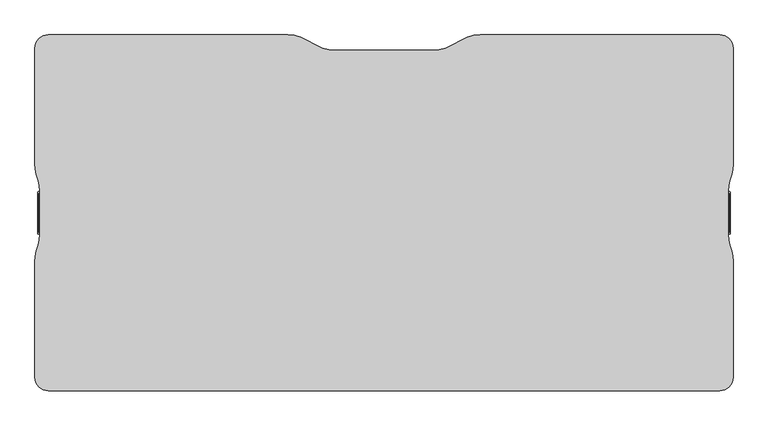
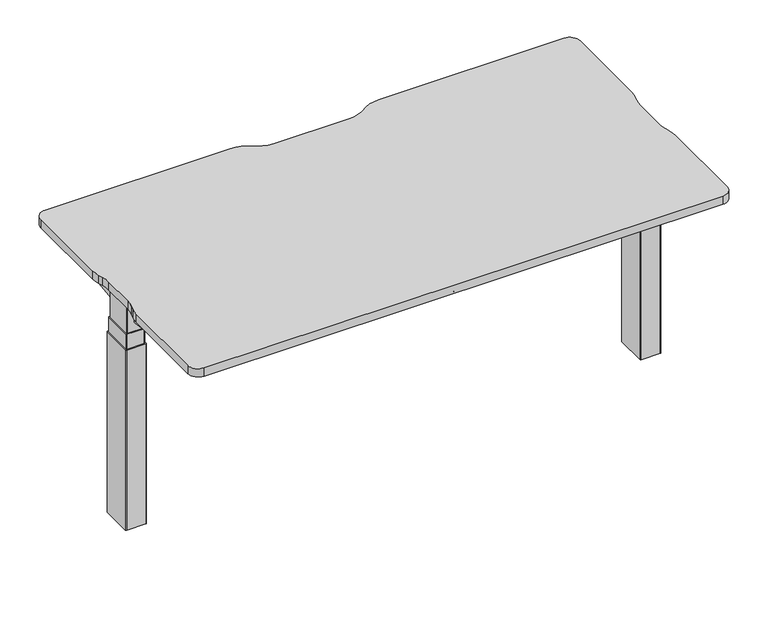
"""IFC4 building model written with IfcOpenShell, lengths in millimetres: furniture geometry, DBLTD_TheSenatorGroup_OffcDsks_Workbase_Single_ElectricHAModule : 1600mm Single Electric Height Adjustable Desktop."""

from ifc_helpers import new_model, si_unit, point, frame, frame_2d, origin, origin_with_axes, place, context, project, spatial, polyline, circle_curve, trimmed, segment, composite_curve, outline, extrude, source, transform, mapped, element, save
from ifc_brep_helpers import plane_surface, cylinder_surface, revolved_surface, advanced_brep


def furniture_de327a2e(model_context):
    return source(origin(), model_context, "Body", "SolidModel", [
        advanced_brep(
        [(827.5, 1074.5635605, 657.0995061), (829.0, 1074.5635605, 657.0995061), (829.0, 874.6252942, 629.0000153), (827.5, 874.6252942, 629.0000153), (786.4997482, 867.1001816, 676.9894572), (826.5, 867.1001816, 676.9894572), (827.5, 867.1001816, 675.9894572), (827.5, 867.1001816, 629.0000153), (829.0, 867.1001816, 629.0000153), (829.0, 867.1001816, 675.9894572), (826.5, 867.1001816, 678.4894572), (786.4997482, 867.1001816, 678.4894572), (827.5, 1074.5635605, 675.9894572), (826.5, 1074.5635605, 676.9894572), (786.4997482, 1074.5635605, 676.9894572), (786.4997482, 1074.5635605, 678.4894572), (826.5, 1074.5635605, 678.4894572), (829.0, 1074.5635605, 675.9894572)],
        [
            (0, 1),
            (1, 2),
            (2, 3),
            (3, 0),
            (4, 5),
            (5, 6, circle_curve(frame((826.5, 867.1001816, 675.9894572), z_axis=(0.0, 1.0, 0.0), x_axis=(-1.0, 0.0, 0.0)), 1.0)),
            (6, 7),
            (7, 8),
            (8, 9),
            (9, 10, circle_curve(frame((826.5, 867.1001816, 675.9894572), z_axis=(0.0, -1.0, 0.0), x_axis=(-1.0, 0.0, 0.0)), 2.5)),
            (10, 11),
            (11, 4),
            (12, 13, circle_curve(frame((826.5, 1074.5635605, 675.9894572), z_axis=(0.0, -1.0, 0.0), x_axis=(-1.0, 0.0, 0.0)), 1.0)),
            (13, 14),
            (14, 15),
            (15, 16),
            (16, 17, circle_curve(frame((826.5, 1074.5635605, 675.9894572), z_axis=(0.0, 1.0, 0.0), x_axis=(-1.0, 0.0, 0.0)), 2.5)),
            (17, 1),
            (0, 12),
            (13, 5),
            (4, 14),
            (11, 15),
            (10, 16),
            (17, 9),
            (8, 2),
            (7, 3),
            (6, 12),
        ],
        [
            plane_surface(frame((897.5, 1087.3081702, 658.8906442), z_axis=(0.0, 0.13917310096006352, -0.9902680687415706), x_axis=(-1.0, 0.0, 0.0))),
            plane_surface(frame((897.5, 867.1001816, 629.0000153), z_axis=(0.0, -1.0, 0.0), x_axis=(-1.0, 0.0, 0.0))),
            plane_surface(frame((827.5, 1074.5635605, 629.0000153), z_axis=(0.0, 1.0, 0.0), x_axis=(0.0, 0.0, 1.0))),
            plane_surface(frame((786.4997482, 576.1001396, 676.9894572), z_axis=(0.0, 0.0, -1.0), x_axis=(0.0, 1.0, 0.0))),
            plane_surface(frame((786.4997482, 576.1001396, 678.4894572), z_axis=(-1.0, 0.0, 0.0), x_axis=(0.0, 1.0, 0.0))),
            plane_surface(frame((826.5, 576.1001396, 678.4894572), z_axis=(0.0, 0.0, 1.0), x_axis=(0.0, 1.0, 0.0))),
            plane_surface(frame((829.0, 576.1001396, 629.0000153), z_axis=(1.0, 0.0, 0.0), x_axis=(0.0, 1.0, 0.0))),
            plane_surface(frame((827.5, 576.1001396, 629.0000153), z_axis=(0.0, 0.0, -1.0), x_axis=(0.0, 1.0, 0.0))),
            plane_surface(frame((827.5, 576.1001396, 675.9894572), z_axis=(-1.0, 0.0, 0.0), x_axis=(0.0, 1.0, 0.0))),
            revolved_surface(polyline([(825.5, 1074.5635605, 675.9894572), (825.5, 867.1001816, 675.9894572)]), (826.5, 1074.5635605, 675.9894572), (0.0, 1.0, 0.0)),
            cylinder_surface(frame((826.5, 1074.5635605, 675.9894572), z_axis=(0.0, -1.0, 0.0), x_axis=(-1.0, 0.0, 0.0)), 2.5),
        ],
        [
            (0, [[1, 2, 3, 4]]),
            (1, [[5, 6, 7, 8, 9, 10, 11, 12]]),
            (2, [[13, 14, 15, 16, 17, 18, -1, 19]]),
            (3, [[-14, 20, -5, 21]]),
            (4, [[-15, -21, -12, 22]]),
            (5, [[-16, -22, -11, 23]]),
            (6, [[-18, 24, -9, 25, -2]]),
            (7, [[-25, -8, 26, -3]]),
            (8, [[-19, -4, -26, -7, 27]]),
            (9, [[-13, -27, -6, -20]]),
            (10, [[-17, -23, -10, -24]]),
        ],
    ),
        advanced_brep(
        [(826.5, 783.1001616, 676.9894572), (786.4997482, 783.1001616, 676.9894572), (786.4997482, 783.1001616, 678.4894572), (826.5, 783.1001616, 678.4894572), (829.0, 783.1001616, 675.9894572), (829.0, 783.1001616, 629.0000153), (827.5, 783.1001616, 629.0000153), (827.5, 783.1001616, 675.9894572), (829.0, 576.1001396, 657.0343862), (827.5, 576.1001396, 657.0343862), (827.5, 775.5750537, 629.0000153), (829.0, 775.5750537, 629.0000153), (829.0, 576.1001396, 675.9894572), (826.5, 576.1001396, 678.4894572), (786.4997482, 576.1001396, 678.4894572), (786.4997482, 576.1001396, 676.9894572), (826.5, 576.1001396, 676.9894572), (827.5, 576.1001396, 675.9894572)],
        [
            (0, 1),
            (1, 2),
            (2, 3),
            (3, 4, circle_curve(frame((826.5, 783.1001616, 675.9894572), z_axis=(0.0, 1.0, 0.0), x_axis=(-1.0, 0.0, 0.0)), 2.5)),
            (4, 5),
            (5, 6),
            (6, 7),
            (7, 0, circle_curve(frame((826.5, 783.1001616, 675.9894572), z_axis=(0.0, -1.0, 0.0), x_axis=(-1.0, 0.0, 0.0)), 1.0)),
            (8, 9),
            (9, 10),
            (10, 11),
            (11, 8),
            (12, 13, circle_curve(frame((826.5, 576.1001396, 675.9894572), z_axis=(0.0, -1.0, 0.0), x_axis=(-1.0, 0.0, 0.0)), 2.5)),
            (13, 14),
            (14, 15),
            (15, 16),
            (16, 17, circle_curve(frame((826.5, 576.1001396, 675.9894572), z_axis=(0.0, 1.0, 0.0), x_axis=(-1.0, 0.0, 0.0)), 1.0)),
            (17, 9),
            (8, 12),
            (15, 1),
            (0, 16),
            (14, 2),
            (13, 3),
            (11, 5),
            (4, 12),
            (10, 6),
            (17, 7),
        ],
        [
            plane_surface(frame((897.5, 783.1001616, 680.0), z_axis=(0.0, 1.0, 0.0), x_axis=(-1.0, 0.0, 0.0))),
            plane_surface(frame((897.5, 775.5750537, 629.0000153), z_axis=(0.0, -0.13917310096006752, -0.9902680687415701), x_axis=(-1.0, 0.0, 0.0))),
            plane_surface(frame((827.5, 576.1001396, 629.0000153), z_axis=(0.0, -1.0, 0.0), x_axis=(0.0, 0.0, -1.0))),
            plane_surface(frame((786.4997482, 576.1001396, 676.9894572), z_axis=(0.0, 0.0, -1.0), x_axis=(0.0, 1.0, 0.0))),
            plane_surface(frame((786.4997482, 576.1001396, 678.4894572), z_axis=(-1.0, 0.0, 0.0), x_axis=(0.0, 1.0, 0.0))),
            plane_surface(frame((826.5, 576.1001396, 678.4894572), z_axis=(0.0, 0.0, 1.0), x_axis=(0.0, 1.0, 0.0))),
            plane_surface(frame((829.0, 576.1001396, 629.0000153), z_axis=(1.0, 0.0, 0.0), x_axis=(0.0, 1.0, 0.0))),
            plane_surface(frame((827.5, 576.1001396, 629.0000153), z_axis=(0.0, 0.0, -1.0), x_axis=(0.0, 1.0, 0.0))),
            plane_surface(frame((827.5, 576.1001396, 675.9894572), z_axis=(-1.0, 0.0, 0.0), x_axis=(0.0, 1.0, 0.0))),
            revolved_surface(polyline([(825.5, 783.1001616, 675.9894572), (825.5, 576.1001396, 675.9894572)]), (826.5, 1074.5635605, 675.9894572), (0.0, 1.0, 0.0)),
            cylinder_surface(frame((826.5, 1074.5635605, 675.9894572), z_axis=(0.0, -1.0, 0.0), x_axis=(-1.0, 0.0, 0.0)), 2.5),
        ],
        [
            (0, [[1, 2, 3, 4, 5, 6, 7, 8]]),
            (1, [[9, 10, 11, 12]]),
            (2, [[13, 14, 15, 16, 17, 18, -9, 19]]),
            (3, [[-16, 20, -1, 21]]),
            (4, [[-15, 22, -2, -20]]),
            (5, [[-14, 23, -3, -22]]),
            (6, [[-19, -12, 24, -5, 25]]),
            (7, [[-24, -11, 26, -6]]),
            (8, [[-18, 27, -7, -26, -10]]),
            (9, [[-17, -21, -8, -27]]),
            (10, [[-13, -25, -4, -23]]),
        ],
    ),
        advanced_brep(
        [(-32.2393387, 435.3001404, 673.7607027), (-27.6507272, 435.3001404, 672.3139191), (50.0699207, 435.3001404, 672.3139191), (50.0699207, 435.3001404, 673.3139191), (-27.6507272, 435.3001404, 673.3139191), (-31.6657622, 435.3001404, 674.5798548), (-37.082033, 435.3001404, 678.3723684), (-42.2442209, 435.3001404, 680.0), (-56.1499786, 435.3001404, 680.0), (-56.1499786, 435.3001404, 679.0), (-42.2442209, 435.3001404, 679.0), (-37.6556095, 435.3001404, 677.5532164), (182.6507272, 435.3001404, 672.3139191), (187.2393387, 435.3001404, 673.7607027), (192.6556095, 435.3001404, 677.5532164), (197.2442209, 435.3001404, 679.0), (211.1499786, 435.3001404, 679.0), (211.1499786, 435.3001404, 680.0), (197.2442209, 435.3001404, 680.0), (192.082033, 435.3001404, 678.3723684), (186.6657622, 435.3001404, 674.5798548), (182.6507272, 435.3001404, 673.3139191), (104.9300793, 435.3001404, 673.3139191), (104.9300793, 435.3001404, 672.3139191), (-32.2393387, 590.3001785, 673.7607027), (-37.6556095, 590.3001785, 677.5532164), (-42.2442209, 590.3001785, 679.0), (-56.1499786, 590.3001785, 679.0), (-56.1499786, 590.3001785, 680.0), (-42.2442209, 590.3001785, 680.0), (-37.082033, 590.3001785, 678.3723684), (-31.6657622, 590.3001785, 674.5798548), (-27.6507272, 590.3001785, 673.3139191), (182.6507272, 590.3001785, 673.3139191), (186.6657622, 590.3001785, 674.5798548), (192.082033, 590.3001785, 678.3723684), (197.2442209, 590.3001785, 680.0), (211.1499786, 590.3001785, 680.0), (211.1499786, 590.3001785, 679.0), (197.2442209, 590.3001785, 679.0), (192.6556095, 590.3001785, 677.5532164), (187.2393387, 590.3001785, 673.7607027), (182.6507272, 590.3001785, 672.3139191), (-27.6507272, 590.3001785, 672.3139191), (96.3622752, 440.1433261, 672.3139191), (92.065267, 447.2826031, 672.3139191), (62.934733, 447.2826031, 672.3139191), (58.6377248, 440.1433261, 672.3139191), (58.6377248, 440.1433261, 673.3139191), (62.934733, 447.2826031, 673.3139191), (92.065267, 447.2826031, 673.3139191), (96.3622752, 440.1433261, 673.3139191)],
        [
            (0, 1, circle_curve(frame((-27.6507272, 435.3001404, 680.3139191), z_axis=(0.0, -1.0, 0.0), x_axis=(1.0, 0.0, 0.0)), 8.0)),
            (1, 2),
            (2, 3),
            (3, 4),
            (4, 5, circle_curve(frame((-27.6507272, 435.3001404, 680.3139191), z_axis=(0.0, 1.0, 0.0), x_axis=(1.0, 0.0, 0.0)), 7.0)),
            (5, 6),
            (6, 7, circle_curve(frame((-42.2442209, 435.3001404, 671.0), z_axis=(0.0, -1.0, 0.0), x_axis=(1.0, 0.0, 0.0)), 9.0)),
            (7, 8),
            (8, 9),
            (9, 10),
            (10, 11, circle_curve(frame((-42.2442209, 435.3001404, 671.0), z_axis=(0.0, 1.0, 0.0), x_axis=(1.0, 0.0, 0.0)), 8.0)),
            (11, 0),
            (12, 13, circle_curve(frame((182.6507272, 435.3001404, 680.3139191), z_axis=(0.0, -1.0, 0.0), x_axis=(1.0, 0.0, 0.0)), 8.0)),
            (13, 14),
            (14, 15, circle_curve(frame((197.2442209, 435.3001404, 671.0), z_axis=(0.0, 1.0, 0.0), x_axis=(1.0, 0.0, 0.0)), 8.0)),
            (15, 16),
            (16, 17),
            (17, 18),
            (18, 19, circle_curve(frame((197.2442209, 435.3001404, 671.0), z_axis=(0.0, -1.0, 0.0), x_axis=(1.0, 0.0, 0.0)), 9.0)),
            (19, 20),
            (20, 21, circle_curve(frame((182.6507272, 435.3001404, 680.3139191), z_axis=(0.0, 1.0, 0.0), x_axis=(1.0, 0.0, 0.0)), 7.0)),
            (21, 22),
            (22, 23),
            (23, 12),
            (24, 25),
            (25, 26, circle_curve(frame((-42.2442209, 590.3001785, 671.0), z_axis=(0.0, -1.0, 0.0), x_axis=(1.0, 0.0, 0.0)), 8.0)),
            (26, 27),
            (27, 28),
            (28, 29),
            (29, 30, circle_curve(frame((-42.2442209, 590.3001785, 671.0), z_axis=(0.0, 1.0, 0.0), x_axis=(1.0, 0.0, 0.0)), 9.0)),
            (30, 31),
            (31, 32, circle_curve(frame((-27.6507272, 590.3001785, 680.3139191), z_axis=(0.0, -1.0, 0.0), x_axis=(1.0, 0.0, 0.0)), 7.0)),
            (32, 33),
            (33, 34, circle_curve(frame((182.6507272, 590.3001785, 680.3139191), z_axis=(0.0, -1.0, 0.0), x_axis=(1.0, 0.0, 0.0)), 7.0)),
            (34, 35),
            (35, 36, circle_curve(frame((197.2442209, 590.3001785, 671.0), z_axis=(0.0, 1.0, 0.0), x_axis=(1.0, 0.0, 0.0)), 9.0)),
            (36, 37),
            (37, 38),
            (38, 39),
            (39, 40, circle_curve(frame((197.2442209, 590.3001785, 671.0), z_axis=(0.0, -1.0, 0.0), x_axis=(1.0, 0.0, 0.0)), 8.0)),
            (40, 41),
            (41, 42, circle_curve(frame((182.6507272, 590.3001785, 680.3139191), z_axis=(0.0, 1.0, 0.0), x_axis=(1.0, 0.0, 0.0)), 8.0)),
            (42, 43),
            (43, 24, circle_curve(frame((-27.6507272, 590.3001785, 680.3139191), z_axis=(0.0, 1.0, 0.0), x_axis=(1.0, 0.0, 0.0)), 8.0)),
            (0, 24),
            (43, 1),
            (42, 12),
            (23, 44, circle_curve(frame((104.9300793, 445.3001404, 672.3139191), z_axis=(0.0, 0.0, -1.0), x_axis=(1.0, 0.0, 0.0)), 10.0)),
            (44, 45),
            (45, 46, circle_curve(frame((77.5, 438.5160189, 672.3139191), z_axis=(0.0, 0.0, 1.0), x_axis=(1.0, 0.0, 0.0)), 17.0)),
            (46, 47),
            (47, 2, circle_curve(frame((50.0699207, 445.3001404, 672.3139191), z_axis=(0.0, 0.0, -1.0), x_axis=(1.0, 0.0, 0.0)), 10.0)),
            (41, 13),
            (40, 14),
            (39, 15),
            (38, 16),
            (37, 17),
            (36, 18),
            (35, 19),
            (34, 20),
            (33, 21),
            (32, 4),
            (3, 48, circle_curve(frame((50.0699207, 445.3001404, 673.3139191), z_axis=(0.0, 0.0, 1.0), x_axis=(1.0, 0.0, 0.0)), 10.0)),
            (48, 49),
            (49, 50, circle_curve(frame((77.5, 438.5160189, 673.3139191), z_axis=(0.0, 0.0, -1.0), x_axis=(1.0, 0.0, 0.0)), 17.0)),
            (50, 51),
            (51, 22, circle_curve(frame((104.9300793, 445.3001404, 673.3139191), z_axis=(0.0, 0.0, 1.0), x_axis=(1.0, 0.0, 0.0)), 10.0)),
            (31, 5),
            (30, 6),
            (29, 7),
            (28, 8),
            (27, 9),
            (26, 10),
            (25, 11),
            (47, 48),
            (51, 44),
            (50, 45),
            (49, 46),
        ],
        [
            plane_surface(frame((-19.6507272, 435.3001404, 680.3139191), z_axis=(0.0, -1.0, 0.0), x_axis=(0.0, 0.0, 1.0))),
            plane_surface(frame((-19.6507272, 590.3001785, 680.3139191), z_axis=(0.0, 1.0, 0.0), x_axis=(0.0, 0.0, -1.0))),
            cylinder_surface(frame((-27.6507272, 590.3001785, 680.3139191), z_axis=(0.0, -1.0, 0.0), x_axis=(1.0, 0.0, 0.0)), 8.0),
            plane_surface(frame((-27.6507272, 435.3001404, 672.3139191), z_axis=(0.0, 0.0, -1.0), x_axis=(0.0, 1.0, 0.0))),
            cylinder_surface(frame((182.6507272, 590.3001785, 680.3139191), z_axis=(0.0, -1.0, 0.0), x_axis=(1.0, 0.0, 0.0)), 8.0),
            plane_surface(frame((187.2393387, 435.3001404, 673.7607027), z_axis=(0.5735764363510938, 0.0, -0.8191520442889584), x_axis=(0.0, 1.0, 0.0))),
            revolved_surface(polyline([(205.2442209, 590.3001785, 671.0), (205.2442209, 435.3001404, 671.0)]), (197.2442209, 590.3001785, 671.0), (0.0, 1.0, 0.0)),
            plane_surface(frame((197.2442209, 435.3001404, 679.0), z_axis=(0.0, 0.0, -1.0), x_axis=(0.0, 1.0, 0.0))),
            plane_surface(frame((211.1499786, 435.3001404, 679.0), z_axis=(1.0, 0.0, 0.0), x_axis=(0.0, 1.0, 0.0))),
            plane_surface(frame((211.1499786, 435.3001404, 680.0), z_axis=(0.0, 0.0, 1.0), x_axis=(0.0, 1.0, 0.0))),
            cylinder_surface(frame((197.2442209, 590.3001785, 671.0), z_axis=(0.0, -1.0, 0.0), x_axis=(1.0, 0.0, 0.0)), 9.0),
            plane_surface(frame((192.082033, 435.3001404, 678.3723684), z_axis=(-0.5735764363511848, 0.0, 0.8191520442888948), x_axis=(0.0, 1.0, 0.0))),
            revolved_surface(polyline([(189.6507272, 590.3001785, 680.3139191), (189.6507272, 435.3001404, 680.3139191)]), (182.6507272, 590.3001785, 680.3139191), (0.0, 1.0, 0.0)),
            plane_surface(frame((182.6507272, 435.3001404, 673.3139191), z_axis=(0.0, 0.0, 1.0), x_axis=(0.0, 1.0, 0.0))),
            revolved_surface(polyline([(-20.6507272, 590.3001785, 680.3139191), (-20.6507272, 435.3001404, 680.3139191)]), (-27.6507272, 590.3001785, 680.3139191), (0.0, 1.0, 0.0)),
            plane_surface(frame((-31.6657622, 435.3001404, 674.5798548), z_axis=(0.5735764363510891, 0.0, 0.8191520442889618), x_axis=(0.0, 1.0, 0.0))),
            cylinder_surface(frame((-42.2442209, 590.3001785, 671.0), z_axis=(0.0, -1.0, 0.0), x_axis=(1.0, 0.0, 0.0)), 9.0),
            plane_surface(frame((-42.2442209, 435.3001404, 680.0), z_axis=(0.0, 0.0, 1.0), x_axis=(0.0, 1.0, 0.0))),
            plane_surface(frame((-56.1499786, 435.3001404, 680.0), z_axis=(-1.0, 0.0, 0.0), x_axis=(0.0, 1.0, 0.0))),
            plane_surface(frame((-56.1499786, 435.3001404, 679.0), z_axis=(0.0, 0.0, -1.0), x_axis=(0.0, 1.0, 0.0))),
            revolved_surface(polyline([(-34.2442209, 590.3001785, 671.0), (-34.2442209, 435.3001404, 671.0)]), (-42.2442209, 590.3001785, 671.0), (0.0, 1.0, 0.0)),
            plane_surface(frame((-37.6556095, 435.3001404, 677.5532164), z_axis=(-0.5735764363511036, 0.0, -0.8191520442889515), x_axis=(0.0, 1.0, 0.0))),
            cylinder_surface(frame((50.0699207, 445.3001404, 634.1919139), z_axis=(0.0, 0.0, -1.0), x_axis=(1.0, 0.0, 0.0)), 10.0),
            cylinder_surface(frame((104.9300793, 445.3001404, 634.1919139), z_axis=(0.0, 0.0, -1.0), x_axis=(1.0, 0.0, 0.0)), 10.0),
            plane_surface(frame((96.3622752, 440.1433261, 680.0), z_axis=(-0.8567804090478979, -0.5156814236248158, 0.0), x_axis=(0.0, 0.0, -1.0))),
            revolved_surface(polyline([(94.5, 438.5160189, 673.3139191), (94.5, 438.5160189, 672.3139191)]), (77.5, 438.5160189, 634.1919139), (0.0, 0.0, 1.0)),
            plane_surface(frame((62.934733, 447.2826031, 680.0), z_axis=(0.8567804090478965, -0.5156814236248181, 0.0), x_axis=(0.0, 0.0, -1.0))),
        ],
        [
            (0, [[1, 2, 3, 4, 5, 6, 7, 8, 9, 10, 11, 12]]),
            (0, [[13, 14, 15, 16, 17, 18, 19, 20, 21, 22, 23, 24]]),
            (1, [[25, 26, 27, 28, 29, 30, 31, 32, 33, 34, 35, 36, 37, 38, 39, 40, 41, 42, 43, 44]]),
            (2, [[-1, 45, -44, 46]]),
            (3, [[-43, 47, -24, 48, 49, 50, 51, 52, -2, -46]]),
            (4, [[-13, -47, -42, 53]]),
            (5, [[-14, -53, -41, 54]]),
            (6, [[-15, -54, -40, 55]]),
            (7, [[-16, -55, -39, 56]]),
            (8, [[-17, -56, -38, 57]]),
            (9, [[-18, -57, -37, 58]]),
            (10, [[-19, -58, -36, 59]]),
            (11, [[-20, -59, -35, 60]]),
            (12, [[-21, -60, -34, 61]]),
            (13, [[-33, 62, -4, 63, 64, 65, 66, 67, -22, -61]]),
            (14, [[-5, -62, -32, 68]]),
            (15, [[-6, -68, -31, 69]]),
            (16, [[-7, -69, -30, 70]]),
            (17, [[-8, -70, -29, 71]]),
            (18, [[-9, -71, -28, 72]]),
            (19, [[-10, -72, -27, 73]]),
            (20, [[-11, -73, -26, 74]]),
            (21, [[-12, -74, -25, -45]]),
            (22, [[75, -63, -3, -52]]),
            (23, [[76, -48, -23, -67]]),
            (24, [[-76, -66, 77, -49]]),
            (25, [[-77, -65, 78, -50]]),
            (26, [[-75, -51, -78, -64]]),
        ],
    ),
        extrude(outline(composite_curve([segment(trimmed(circle_curve(frame_2d((649.1919139, 181.1499786)), 15.0), [point((634.1919139, 181.1499786))], [point((649.1919139, 196.1499786))], False, "CARTESIAN"), True, "CONTINUOUS"), segment(polyline([(649.1919139, 196.1499786), (680.0, 196.1499786), (680.0, -41.1499786), (649.1919139, -41.1499786)]), True, "CONTINUOUS"), segment(trimmed(circle_curve(frame_2d((649.1919139, -26.1499786)), 15.0), [point((649.1919139, -41.1499786))], [point((634.1919139, -26.1499786))], False, "CARTESIAN"), True, "CONTINUOUS"), segment(polyline([(634.1919139, -26.1499786), (634.1919139, 181.1499786)]), True, "CONTINUOUS")], self_intersect=False)), frame((0.0, 990.4735374, 0.0), z_axis=(0.0, 1.0, 0.0), x_axis=(0.0, 0.0, 1.0)), (0.0, 0.0, 1.0), 96.9000053),
        extrude(outline(polyline([(634.1919139, 668.6489149), (634.1919139, 801.0998398), (676.9894572, 801.0998398), (676.9894572, 654.7431501), (634.1919139, 668.6489149)])), frame((0.0, 783.1001616, 0.0), z_axis=(0.0, 1.0, 0.0), x_axis=(0.0, 0.0, 1.0)), (0.0, 0.0, 1.0), 83.90002),
        extrude(outline(composite_curve([segment(polyline([(849.8998093, 865.0001816), (849.8998093, 785.1001616)]), True, "CONTINUOUS"), segment(trimmed(circle_curve(frame_2d((847.8998093, 785.1001616)), 2.0), [point((849.8998093, 785.1001616))], [point((847.8998093, 783.1001616))], False, "CARTESIAN"), True, "CONTINUOUS"), segment(polyline([(847.8998093, 783.1001616), (803.0998398, 783.1001616)]), True, "CONTINUOUS"), segment(trimmed(circle_curve(frame_2d((803.0998398, 785.1001616)), 2.0), [point((803.0998398, 783.1001616))], [point((801.0998398, 785.1001616))], False, "CARTESIAN"), True, "CONTINUOUS"), segment(polyline([(801.0998398, 785.1001616), (801.0998398, 865.0001816)]), True, "CONTINUOUS"), segment(trimmed(circle_curve(frame_2d((803.0998398, 865.0001816)), 2.0), [point((801.0998398, 865.0001816))], [point((803.0998398, 867.0001816))], False, "CARTESIAN"), True, "CONTINUOUS"), segment(polyline([(803.0998398, 867.0001816), (847.8998093, 867.0001816)]), True, "CONTINUOUS"), segment(trimmed(circle_curve(frame_2d((847.8998093, 865.0001816)), 2.0), [point((847.8998093, 867.0001816))], [point((849.8998093, 865.0001816))], False, "CARTESIAN"), True, "CONTINUOUS")], self_intersect=False)), frame((0.0, 0.0, 599.5000076), z_axis=(0.0, 0.0, 1.0), x_axis=(1.0, 0.0, 0.0)), (0.0, 0.0, 1.0), 34.6919063),
        extrude(outline(composite_curve([segment(polyline([(852.7497482, 867.8122811), (852.7497482, 782.3880596)]), True, "CONTINUOUS"), segment(trimmed(circle_curve(frame_2d((850.7497482, 782.3880596)), 2.0), [point((852.7497482, 782.3880596))], [point((850.7497482, 780.3880596))], False, "CARTESIAN"), True, "CONTINUOUS"), segment(polyline([(850.7497482, 780.3880596), (800.2998398, 780.3880596)]), True, "CONTINUOUS"), segment(trimmed(circle_curve(frame_2d((800.2998398, 782.3880596)), 2.0), [point((800.2998398, 780.3880596))], [point((798.2998398, 782.3880596))], False, "CARTESIAN"), True, "CONTINUOUS"), segment(polyline([(798.2998398, 782.3880596), (798.2998398, 867.8122811)]), True, "CONTINUOUS"), segment(trimmed(circle_curve(frame_2d((800.2998398, 867.8122811)), 2.0), [point((798.2998398, 867.8122811))], [point((800.2998398, 869.8122811))], False, "CARTESIAN"), True, "CONTINUOUS"), segment(polyline([(800.2998398, 869.8122811), (850.7497482, 869.8122811)]), True, "CONTINUOUS"), segment(trimmed(circle_curve(frame_2d((850.7497482, 867.8122811)), 2.0), [point((850.7497482, 869.8122811))], [point((852.7497482, 867.8122811))], False, "CARTESIAN"), True, "CONTINUOUS")], self_intersect=False)), frame((0.0, 0.0, 554.0000153), z_axis=(0.0, 0.0, 1.0), x_axis=(1.0, 0.0, 0.0)), (0.0, 0.0, 1.0), 45.4999924),
        extrude(outline(composite_curve([segment(polyline([(855.4997635, 870.5622916), (855.4997635, 779.6380491)]), True, "CONTINUOUS"), segment(trimmed(circle_curve(frame_2d((853.4997635, 779.6380491)), 2.0), [point((855.4997635, 779.6380491))], [point((853.4997635, 777.6380491))], False, "CARTESIAN"), True, "CONTINUOUS"), segment(polyline([(853.4997635, 777.6380491), (797.4998398, 777.6380491)]), True, "CONTINUOUS"), segment(trimmed(circle_curve(frame_2d((797.4998398, 779.6380491)), 2.0), [point((797.4998398, 777.6380491))], [point((795.4998398, 779.6380491))], False, "CARTESIAN"), True, "CONTINUOUS"), segment(polyline([(795.4998398, 779.6380491), (795.4998398, 870.5622916)]), True, "CONTINUOUS"), segment(trimmed(circle_curve(frame_2d((797.4998398, 870.5622916)), 2.0), [point((795.4998398, 870.5622916))], [point((797.4998398, 872.5622916))], False, "CARTESIAN"), True, "CONTINUOUS"), segment(polyline([(797.4998398, 872.5622916), (853.4997635, 872.5622916)]), True, "CONTINUOUS"), segment(trimmed(circle_curve(frame_2d((853.4997635, 870.5622916)), 2.0), [point((853.4997635, 872.5622916))], [point((855.4997635, 870.5622916))], False, "CARTESIAN"), True, "CONTINUOUS")], self_intersect=False)), origin_with_axes(), (0.0, 0.0, 1.0), 554.0000153),
        advanced_brep(
        [(-672.5, 576.1001396, 675.9894572), (-671.5, 576.1001396, 676.9894572), (-631.4997482, 576.1001396, 676.9894572), (-631.4997482, 576.1001396, 678.4894572), (-671.5, 576.1001396, 678.4894572), (-674.0, 576.1001396, 675.9894572), (-674.0, 576.1001396, 657.0343862), (-672.5, 576.1001396, 657.0343862), (-671.5, 783.1001616, 676.9894572), (-631.4997482, 783.1001616, 676.9894572), (-631.4997482, 783.1001616, 678.4894572), (-671.5, 783.1001616, 678.4894572), (-674.0, 783.1001616, 675.9894572), (-674.0, 783.1001616, 629.0000153), (-674.0, 775.5750537, 629.0000153), (-672.5, 783.1001616, 629.0000153), (-672.5, 775.5750537, 629.0000153), (-672.5, 783.1001616, 675.9894572)],
        [
            (0, 1, circle_curve(frame((-671.5, 576.1001396, 675.9894572), z_axis=(0.0, 1.0, 0.0), x_axis=(1.0, 0.0, 0.0)), 1.0)),
            (1, 2),
            (2, 3),
            (3, 4),
            (4, 5, circle_curve(frame((-671.5, 576.1001396, 675.9894572), z_axis=(0.0, -1.0, 0.0), x_axis=(1.0, 0.0, 0.0)), 2.5)),
            (5, 6),
            (6, 7),
            (7, 0),
            (1, 8),
            (8, 9),
            (9, 2),
            (9, 10),
            (10, 3),
            (10, 11),
            (11, 4),
            (5, 12),
            (12, 13),
            (13, 14),
            (14, 6),
            (13, 15),
            (15, 16),
            (16, 14),
            (7, 16),
            (15, 17),
            (17, 0),
            (8, 17, circle_curve(frame((-671.5, 783.1001616, 675.9894572), z_axis=(0.0, -1.0, 0.0), x_axis=(1.0, 0.0, 0.0)), 1.0)),
            (12, 11, circle_curve(frame((-671.5, 783.1001616, 675.9894572), z_axis=(0.0, 1.0, 0.0), x_axis=(1.0, 0.0, 0.0)), 2.5)),
        ],
        [
            plane_surface(frame((-670.5, 576.1001396, 675.9894572), z_axis=(0.0, -1.0, 0.0), x_axis=(0.0, 0.0, -1.0))),
            plane_surface(frame((-671.5, 576.1001396, 676.9894572), z_axis=(0.0, 0.0, -1.0), x_axis=(0.0, 1.0, 0.0))),
            plane_surface(frame((-631.4997482, 576.1001396, 676.9894572), z_axis=(1.0, 0.0, 0.0), x_axis=(0.0, 1.0, 0.0))),
            plane_surface(frame((-631.4997482, 576.1001396, 678.4894572), z_axis=(0.0, 0.0, 1.0), x_axis=(0.0, 1.0, 0.0))),
            plane_surface(frame((-674.0, 576.1001396, 675.9894572), z_axis=(-1.0, 0.0, 0.0), x_axis=(0.0, 1.0, 0.0))),
            plane_surface(frame((-674.0, 576.1001396, 629.0000153), z_axis=(0.0, 0.0, -1.0), x_axis=(0.0, 1.0, 0.0))),
            plane_surface(frame((-672.5, 576.1001396, 629.0000153), z_axis=(1.0, 0.0, 0.0), x_axis=(0.0, 1.0, 0.0))),
            plane_surface(frame((897.5, 783.1001616, 680.0), z_axis=(0.0, 1.0, 0.0), x_axis=(-1.0, 0.0, 0.0))),
            plane_surface(frame((897.5, 775.5750537, 629.0000153), z_axis=(0.0, -0.13917310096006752, -0.9902680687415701), x_axis=(-1.0, 0.0, 0.0))),
            revolved_surface(polyline([(-670.5, 783.1001616, 675.9894572), (-670.5, 576.1001396, 675.9894572)]), (-671.5, 1074.5635605, 675.9894572), (0.0, 1.0, 0.0)),
            cylinder_surface(frame((-671.5, 1074.5635605, 675.9894572), z_axis=(0.0, -1.0, 0.0), x_axis=(1.0, 0.0, 0.0)), 2.5),
        ],
        [
            (0, [[1, 2, 3, 4, 5, 6, 7, 8]]),
            (1, [[-2, 9, 10, 11]]),
            (2, [[-3, -11, 12, 13]]),
            (3, [[-4, -13, 14, 15]]),
            (4, [[-6, 16, 17, 18, 19]]),
            (5, [[-18, 20, 21, 22]]),
            (6, [[-8, 23, -21, 24, 25]]),
            (7, [[-10, 26, -24, -20, -17, 27, -14, -12]]),
            (8, [[-7, -19, -22, -23]]),
            (9, [[-1, -25, -26, -9]]),
            (10, [[-5, -15, -27, -16]]),
        ],
    ),
        advanced_brep(
        [(-674.0, 1074.5635605, 675.9894572), (-671.5, 1074.5635605, 678.4894572), (-631.4997482, 1074.5635605, 678.4894572), (-631.4997482, 1074.5635605, 676.9894572), (-671.5, 1074.5635605, 676.9894572), (-672.5, 1074.5635605, 675.9894572), (-672.5, 1074.5635605, 657.0995061), (-674.0, 1074.5635605, 657.0995061), (-631.4997482, 867.1001816, 676.9894572), (-671.5, 867.1001816, 676.9894572), (-631.4997482, 867.1001816, 678.4894572), (-671.5, 867.1001816, 678.4894572), (-674.0, 874.6252942, 629.0000153), (-674.0, 867.1001816, 629.0000153), (-674.0, 867.1001816, 675.9894572), (-672.5, 874.6252942, 629.0000153), (-672.5, 867.1001816, 629.0000153), (-672.5, 867.1001816, 675.9894572)],
        [
            (0, 1, circle_curve(frame((-671.5, 1074.5635605, 675.9894572), z_axis=(0.0, 1.0, 0.0), x_axis=(1.0, 0.0, 0.0)), 2.5)),
            (1, 2),
            (2, 3),
            (3, 4),
            (4, 5, circle_curve(frame((-671.5, 1074.5635605, 675.9894572), z_axis=(0.0, -1.0, 0.0), x_axis=(1.0, 0.0, 0.0)), 1.0)),
            (5, 6),
            (6, 7),
            (7, 0),
            (3, 8),
            (8, 9),
            (9, 4),
            (2, 10),
            (10, 8),
            (1, 11),
            (11, 10),
            (7, 12),
            (12, 13),
            (13, 14),
            (14, 0),
            (12, 15),
            (15, 16),
            (16, 13),
            (5, 17),
            (17, 16),
            (15, 6),
            (11, 14, circle_curve(frame((-671.5, 867.1001816, 675.9894572), z_axis=(0.0, -1.0, 0.0), x_axis=(1.0, 0.0, 0.0)), 2.5)),
            (17, 9, circle_curve(frame((-671.5, 867.1001816, 675.9894572), z_axis=(0.0, 1.0, 0.0), x_axis=(1.0, 0.0, 0.0)), 1.0)),
        ],
        [
            plane_surface(frame((-670.5, 1074.5635605, 675.9894572), z_axis=(0.0, 1.0, 0.0), x_axis=(0.0, 0.0, 1.0))),
            plane_surface(frame((-671.5, 576.1001396, 676.9894572), z_axis=(0.0, 0.0, -1.0), x_axis=(0.0, 1.0, 0.0))),
            plane_surface(frame((-631.4997482, 576.1001396, 676.9894572), z_axis=(1.0, 0.0, 0.0), x_axis=(0.0, 1.0, 0.0))),
            plane_surface(frame((-631.4997482, 576.1001396, 678.4894572), z_axis=(0.0, 0.0, 1.0), x_axis=(0.0, 1.0, 0.0))),
            plane_surface(frame((-674.0, 576.1001396, 675.9894572), z_axis=(-1.0, 0.0, 0.0), x_axis=(0.0, 1.0, 0.0))),
            plane_surface(frame((-674.0, 576.1001396, 629.0000153), z_axis=(0.0, 0.0, -1.0), x_axis=(0.0, 1.0, 0.0))),
            plane_surface(frame((-672.5, 576.1001396, 629.0000153), z_axis=(1.0, 0.0, 0.0), x_axis=(0.0, 1.0, 0.0))),
            plane_surface(frame((897.5, 1087.3081702, 658.8906442), z_axis=(0.0, 0.13917310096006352, -0.9902680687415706), x_axis=(-1.0, 0.0, 0.0))),
            plane_surface(frame((897.5, 867.1001816, 629.0000153), z_axis=(0.0, -1.0, 0.0), x_axis=(-1.0, 0.0, 0.0))),
            revolved_surface(polyline([(-670.5, 1074.5635605, 675.9894572), (-670.5, 867.1001816, 675.9894572)]), (-671.5, 1074.5635605, 675.9894572), (0.0, 1.0, 0.0)),
            cylinder_surface(frame((-671.5, 1074.5635605, 675.9894572), z_axis=(0.0, -1.0, 0.0), x_axis=(1.0, 0.0, 0.0)), 2.5),
        ],
        [
            (0, [[1, 2, 3, 4, 5, 6, 7, 8]]),
            (1, [[-4, 9, 10, 11]]),
            (2, [[-3, 12, 13, -9]]),
            (3, [[-2, 14, 15, -12]]),
            (4, [[-8, 16, 17, 18, 19]]),
            (5, [[-17, 20, 21, 22]]),
            (6, [[-6, 23, 24, -21, 25]]),
            (7, [[-7, -25, -20, -16]]),
            (8, [[-10, -13, -15, 26, -18, -22, -24, 27]]),
            (9, [[-5, -11, -27, -23]]),
            (10, [[-1, -19, -26, -14]]),
        ],
    ),
        extrude(outline(polyline([(827.5, 899.70016), (827.5, 874.70016), (-672.5, 874.70016), (-672.5, 899.70016), (827.5, 899.70016)])), frame((0.0, 0.0, 650.0), z_axis=(0.0, 0.0, 1.0), x_axis=(1.0, 0.0, 0.0)), (0.0, 0.0, 1.0), 25.0),
        extrude(outline(polyline([(827.5, 775.5001879), (827.5, 750.5001879), (-672.5, 750.5001879), (-672.5, 775.5001879), (827.5, 775.5001879)])), frame((0.0, 0.0, 650.0), z_axis=(0.0, 0.0, 1.0), x_axis=(1.0, 0.0, 0.0)), (0.0, 0.0, 1.0), 25.0),
        extrude(outline(polyline([(634.1919139, -513.6489149), (676.9894572, -499.7431501), (676.9894572, -646.0998398), (634.1919139, -646.0998398), (634.1919139, -513.6489149)])), frame((0.0, 783.1001616, 0.0), z_axis=(0.0, 1.0, 0.0), x_axis=(0.0, 0.0, 1.0)), (0.0, 0.0, 1.0), 83.90002),
        extrude(outline(composite_curve([segment(trimmed(circle_curve(frame_2d((-692.8998093, 865.0001816)), 2.0), [point((-694.8998093, 865.0001816))], [point((-692.8998093, 867.0001816))], False, "CARTESIAN"), True, "CONTINUOUS"), segment(polyline([(-692.8998093, 867.0001816), (-648.0998398, 867.0001816)]), True, "CONTINUOUS"), segment(trimmed(circle_curve(frame_2d((-648.0998398, 865.0001816)), 2.0), [point((-648.0998398, 867.0001816))], [point((-646.0998398, 865.0001816))], False, "CARTESIAN"), True, "CONTINUOUS"), segment(polyline([(-646.0998398, 865.0001816), (-646.0998398, 785.1001616)]), True, "CONTINUOUS"), segment(trimmed(circle_curve(frame_2d((-648.0998398, 785.1001616)), 2.0), [point((-646.0998398, 785.1001616))], [point((-648.0998398, 783.1001616))], False, "CARTESIAN"), True, "CONTINUOUS"), segment(polyline([(-648.0998398, 783.1001616), (-692.8998093, 783.1001616)]), True, "CONTINUOUS"), segment(trimmed(circle_curve(frame_2d((-692.8998093, 785.1001616)), 2.0), [point((-692.8998093, 783.1001616))], [point((-694.8998093, 785.1001616))], False, "CARTESIAN"), True, "CONTINUOUS"), segment(polyline([(-694.8998093, 785.1001616), (-694.8998093, 865.0001816)]), True, "CONTINUOUS")], self_intersect=False)), frame((0.0, 0.0, 599.5000076), z_axis=(0.0, 0.0, 1.0), x_axis=(1.0, 0.0, 0.0)), (0.0, 0.0, 1.0), 80.4999924),
        extrude(outline(composite_curve([segment(trimmed(circle_curve(frame_2d((-695.7497482, 867.8122811)), 2.0), [point((-697.7497482, 867.8122811))], [point((-695.7497482, 869.8122811))], False, "CARTESIAN"), True, "CONTINUOUS"), segment(polyline([(-695.7497482, 869.8122811), (-645.2998398, 869.8122811)]), True, "CONTINUOUS"), segment(trimmed(circle_curve(frame_2d((-645.2998398, 867.8122811)), 2.0), [point((-645.2998398, 869.8122811))], [point((-643.2998398, 867.8122811))], False, "CARTESIAN"), True, "CONTINUOUS"), segment(polyline([(-643.2998398, 867.8122811), (-643.2998398, 782.3880596)]), True, "CONTINUOUS"), segment(trimmed(circle_curve(frame_2d((-645.2998398, 782.3880596)), 2.0), [point((-643.2998398, 782.3880596))], [point((-645.2998398, 780.3880596))], False, "CARTESIAN"), True, "CONTINUOUS"), segment(polyline([(-645.2998398, 780.3880596), (-695.7497482, 780.3880596)]), True, "CONTINUOUS"), segment(trimmed(circle_curve(frame_2d((-695.7497482, 782.3880596)), 2.0), [point((-695.7497482, 780.3880596))], [point((-697.7497482, 782.3880596))], False, "CARTESIAN"), True, "CONTINUOUS"), segment(polyline([(-697.7497482, 782.3880596), (-697.7497482, 867.8122811)]), True, "CONTINUOUS")], self_intersect=False)), frame((0.0, 0.0, 554.0000153), z_axis=(0.0, 0.0, 1.0), x_axis=(1.0, 0.0, 0.0)), (0.0, 0.0, 1.0), 45.4999924),
        extrude(outline(composite_curve([segment(trimmed(circle_curve(frame_2d((-698.4997635, 870.5622916)), 2.0), [point((-700.4997635, 870.5622916))], [point((-698.4997635, 872.5622916))], False, "CARTESIAN"), True, "CONTINUOUS"), segment(polyline([(-698.4997635, 872.5622916), (-642.4998398, 872.5622916)]), True, "CONTINUOUS"), segment(trimmed(circle_curve(frame_2d((-642.4998398, 870.5622916)), 2.0), [point((-642.4998398, 872.5622916))], [point((-640.4998398, 870.5622916))], False, "CARTESIAN"), True, "CONTINUOUS"), segment(polyline([(-640.4998398, 870.5622916), (-640.4998398, 779.6380491)]), True, "CONTINUOUS"), segment(trimmed(circle_curve(frame_2d((-642.4998398, 779.6380491)), 2.0), [point((-640.4998398, 779.6380491))], [point((-642.4998398, 777.6380491))], False, "CARTESIAN"), True, "CONTINUOUS"), segment(polyline([(-642.4998398, 777.6380491), (-698.4997635, 777.6380491)]), True, "CONTINUOUS"), segment(trimmed(circle_curve(frame_2d((-698.4997635, 779.6380491)), 2.0), [point((-698.4997635, 777.6380491))], [point((-700.4997635, 779.6380491))], False, "CARTESIAN"), True, "CONTINUOUS"), segment(polyline([(-700.4997635, 779.6380491), (-700.4997635, 870.5622916)]), True, "CONTINUOUS")], self_intersect=False)), origin_with_axes(), (0.0, 0.0, 1.0), 554.0000153),
        extrude(outline(composite_curve([segment(trimmed(circle_curve(frame_2d((771.44843, 935.5823922)), 90.0), [point((861.4370387, 934.1505025))], [point((858.0999076, 911.2611788))], False, "CARTESIAN"), True, "CONTINUOUS"), segment(polyline([(858.0999076, 911.2611788), (854.3483926, 897.8953031)]), True, "CONTINUOUS"), segment(trimmed(circle_curve(frame_2d((940.9998703, 873.5740897)), 90.0), [point((854.3483926, 897.8953031))], [point((850.9998703, 873.5740897))], True, "CARTESIAN"), True, "CONTINUOUS"), segment(polyline([(850.9998703, 873.5740897), (850.9998703, 776.6262582)]), True, "CONTINUOUS"), segment(trimmed(circle_curve(frame_2d((940.9998703, 776.6262582)), 90.0), [point((850.9998703, 776.6262582))], [point((854.3483926, 752.3050448))], True, "CARTESIAN"), True, "CONTINUOUS"), segment(polyline([(854.3483926, 752.3050448), (858.0999076, 738.9391691)]), True, "CONTINUOUS"), segment(trimmed(circle_curve(frame_2d((771.44843, 714.6179557)), 90.0), [point((858.0999076, 738.9391691))], [point((861.4370387, 716.0498454))], False, "CARTESIAN"), True, "CONTINUOUS"), segment(polyline([(861.4370387, 716.0498454), (861.4370387, 455.100174)]), True, "CONTINUOUS"), segment(trimmed(circle_curve(frame_2d((831.4370387, 455.100174)), 30.0), [point((861.4370387, 455.100174))], [point((831.4370387, 425.100174))], False, "CARTESIAN"), True, "CONTINUOUS"), segment(polyline([(831.4370387, 425.100174), (-676.44843, 425.100174)]), True, "CONTINUOUS"), segment(trimmed(circle_curve(frame_2d((-676.44843, 455.100174)), 30.0), [point((-676.44843, 425.100174))], [point((-706.44843, 455.100174))], False, "CARTESIAN"), True, "CONTINUOUS"), segment(polyline([(-706.44843, 455.100174), (-706.44843, 714.6179557)]), True, "CONTINUOUS"), segment(trimmed(circle_curve(frame_2d((-616.44843, 714.6179557)), 90.0), [point((-706.44843, 714.6179557))], [point((-703.0999076, 738.9391691))], False, "CARTESIAN"), True, "CONTINUOUS"), segment(polyline([(-703.0999076, 738.9391691), (-699.3483926, 752.3050448)]), True, "CONTINUOUS"), segment(trimmed(circle_curve(frame_2d((-785.9998703, 776.6262582)), 90.0), [point((-699.3483926, 752.3050448))], [point((-695.9998703, 776.6262582))], True, "CARTESIAN"), True, "CONTINUOUS"), segment(polyline([(-695.9998703, 776.6262582), (-695.9998703, 873.5740897)]), True, "CONTINUOUS"), segment(trimmed(circle_curve(frame_2d((-785.9998703, 873.5740897)), 90.0), [point((-695.9998703, 873.5740897))], [point((-699.3483926, 897.8953031))], True, "CARTESIAN"), True, "CONTINUOUS"), segment(polyline([(-699.3483926, 897.8953031), (-703.0999076, 911.2611788)]), True, "CONTINUOUS"), segment(trimmed(circle_curve(frame_2d((-616.44843, 935.5823922)), 90.0), [point((-703.0999076, 911.2611788))], [point((-706.44843, 935.5823922))], False, "CARTESIAN"), True, "CONTINUOUS"), segment(polyline([(-706.44843, 935.5823922), (-706.44843, 1195.1001477)]), True, "CONTINUOUS"), segment(trimmed(circle_curve(frame_2d((-676.44843, 1195.1001477)), 30.0), [point((-706.44843, 1195.1001477))], [point((-676.44843, 1225.1001477))], False, "CARTESIAN"), True, "CONTINUOUS"), segment(polyline([(-676.44843, 1225.1001477), (-138.5501619, 1225.1001477)]), True, "CONTINUOUS"), segment(trimmed(circle_curve(frame_2d((-138.5501619, 1139.5300321)), 85.5701156), [point((-138.5501619, 1225.1001477))], [point((-95.7650919, 1213.635919))], False, "CARTESIAN"), True, "CONTINUOUS"), segment(polyline([(-95.7650919, 1213.635919), (-74.7240198, 1201.4878458)]), True, "CONTINUOUS"), segment(trimmed(circle_curve(frame_2d((-32.2240077, 1275.0999981)), 85.0), [point((-74.7240198, 1201.4878458))], [point((-32.2240077, 1190.0999981))], True, "CARTESIAN"), True, "CONTINUOUS"), segment(polyline([(-32.2240077, 1190.0999981), (187.2240077, 1190.0999981)]), True, "CONTINUOUS"), segment(trimmed(circle_curve(frame_2d((187.2240077, 1275.0999981)), 85.0), [point((187.2240077, 1190.0999981))], [point((229.7240198, 1201.4878458))], True, "CARTESIAN"), True, "CONTINUOUS"), segment(polyline([(229.7240198, 1201.4878458), (250.7650919, 1213.635919)]), True, "CONTINUOUS"), segment(trimmed(circle_curve(frame_2d((293.5501619, 1139.5300321)), 85.5701156), [point((250.7650919, 1213.635919))], [point((293.5501619, 1225.1001477))], False, "CARTESIAN"), True, "CONTINUOUS"), segment(polyline([(293.5501619, 1225.1001477), (831.4370387, 1225.1001477)]), True, "CONTINUOUS"), segment(trimmed(circle_curve(frame_2d((831.4370387, 1195.1001477)), 30.0), [point((831.4370387, 1225.1001477))], [point((861.4370387, 1195.1001477))], False, "CARTESIAN"), True, "CONTINUOUS"), segment(polyline([(861.4370387, 1195.1001477), (861.4370387, 934.1505025)]), True, "CONTINUOUS")], self_intersect=False)), frame((0.0, 0.0, 680.0), z_axis=(0.0, 0.0, 1.0), x_axis=(1.0, 0.0, 0.0)), (0.0, 0.0, 1.0), 25.0),
    ])


if __name__ == "__main__":
    model = new_model("IFC4")
    model_context = context("Model", 3, world=origin())
    ifc_project = project(units=[si_unit("LENGTHUNIT", "METRE", prefix="MILLI")], contexts=[model_context])
    site = spatial("IfcSite", under=ifc_project)
    building = spatial("IfcBuilding", under=site)
    placement = place(None, origin())
    furniture_shape = furniture_de327a2e(model_context)
    element("IfcFurniture", 1, ObjectType="DBLTD_TheSenatorGroup_OffcDsks_Workbase_Single_ElectricHAModule : 1600mm Single Electric Height Adjustable Desktop", at=placement, inside=building, context=model_context, shape_type="MappedRepresentation", body=[
        mapped(furniture_shape, transform((0.0, 0.0, 0.0), x_axis=(1.0, 0.0, 0.0), y_axis=(0.0, 1.0, 0.0), z_axis=(0.0, 0.0, 1.0))),
    ])
    save(model, "model.ifc")
